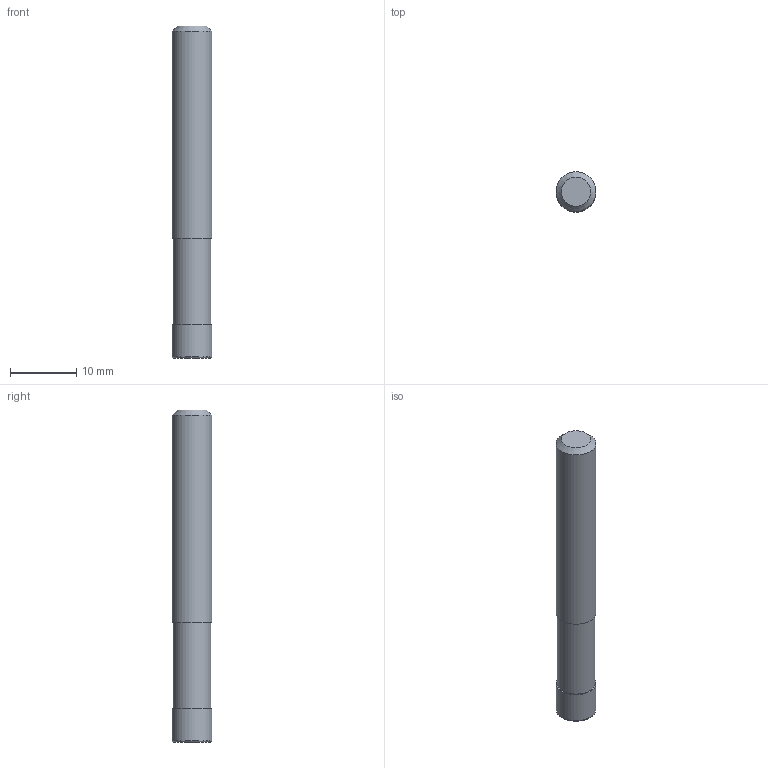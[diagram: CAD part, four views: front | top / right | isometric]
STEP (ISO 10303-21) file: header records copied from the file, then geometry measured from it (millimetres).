
FILE_DESCRIPTION((''),'2;1');
FILE_NAME('C:\Users\nsx150\AppData\Local\Temp\Mastercam 2021\8MCJJJGUOI\TEMP.step','2022-10-12T10:46:41',(''),(''),'STEP Write','Mastercam 2021 ... CNC Software, Inc.','');
FILE_SCHEMA(('AUTOMOTIVE_DESIGN'));
Length unit declared in the file: millimetre
Products named in the file (1): None
Bounding box: 6 x 6 x 50 mm (x, y, z)
Volume: 1372.2 mm3; surface area: 1032 mm2
Topology: 2 solids, 2 shells, 10 faces, 13 edges, 8 vertices
Faces by surface type: plane 5, cylinder 3, torus 1, cone 1
Full cylindrical faces by diameter (mm): 5.7 x1, 6 x2
Entity records: 232 total; most frequent: DIRECTION 40, CARTESIAN_POINT 28, AXIS2_PLACEMENT_3D 20, ORIENTED_EDGE 16, EDGE_LOOP 16, STYLED_ITEM 13, ADVANCED_FACE 10, FACE_BOUND 10
